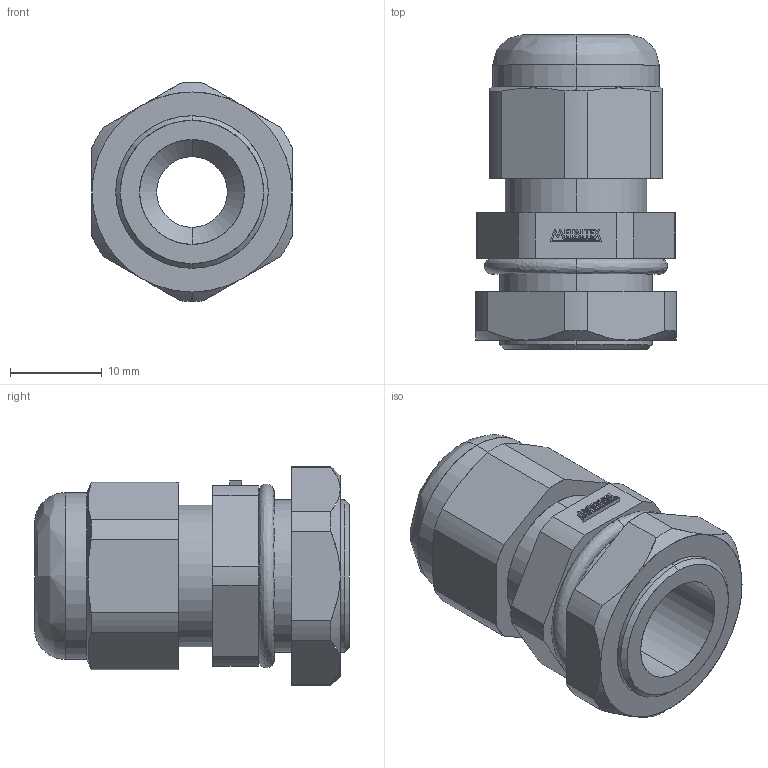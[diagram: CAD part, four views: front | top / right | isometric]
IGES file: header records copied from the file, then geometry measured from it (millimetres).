
Start section: SolidWorks IGES file using analytic representation for surfaces
Global section: file name: D:\X - Arquivos\PROEX\Empresas\P11 - METALTEX\01 - Produtos\IGES\Terceira remessa\Etapa 2\CH-B3_8.IGS; native system: SolidWorks 2012; preprocessor: SolidWorks 2012; author: Usuario; date: 180207.124849; units: millimetre
Bounding box: 21.8 x 34.3 x 23.85 mm (x, y, z)
Surface area: 4330.7 mm2 (no closed solid volume)
Topology: 0 solids, 0 shells, 174 faces, 1299 edges, 1299 vertices
Faces by surface type: bspline 125, revolution 49
